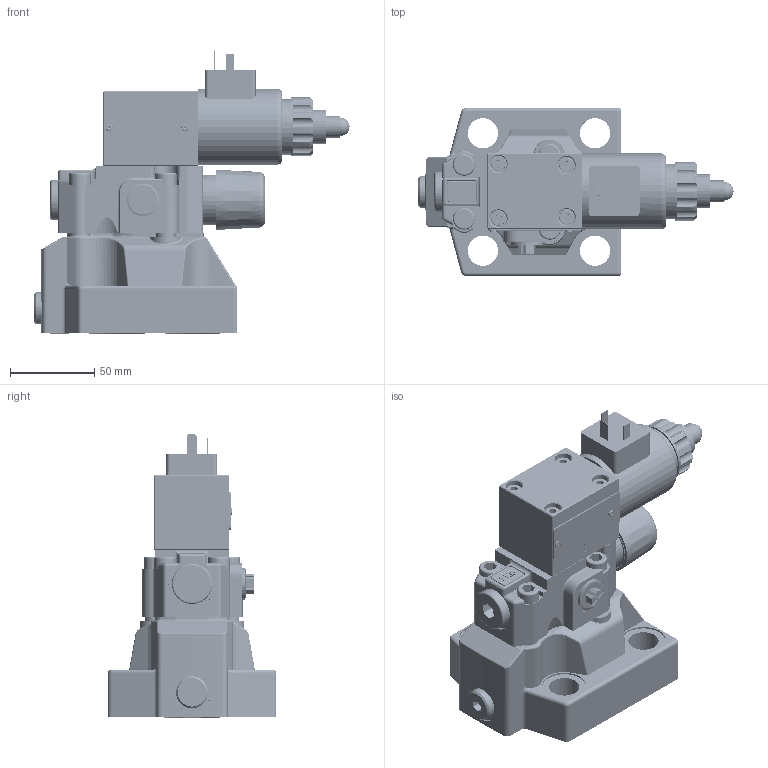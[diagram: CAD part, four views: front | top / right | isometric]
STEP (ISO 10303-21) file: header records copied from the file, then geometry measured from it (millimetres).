
FILE_DESCRIPTION(/* description */ (''),/* implementation_level */ '2;1');
FILE_NAME(/* name */ 'DBEM20.stp',/* time_stamp */ '2024-07-31T14:53:30+08:00',/* author */ (''),/* organization */ (''),/* preprocessor_version */ 'ST-DEVELOPER v16.7',/* originating_system */ 'SIEMENS PLM Software NX 12.0',/* authorisation */ '');
FILE_SCHEMA (('AUTOMOTIVE_DESIGN { 1 0 10303 214 3 1 1 1 }'));
Products named in the file (1): DBEM20
Bounding box: 187.3 x 100 x 168.53 mm (x, y, z)
Volume: 279136.3 mm3; surface area: 209796.9 mm2
Topology: 65 solids, 70 shells, 2124 faces, 5397 edges, 3488 vertices
Faces by surface type: cylinder 836, plane 701, cone 201, bspline 172, extrusion 139, torus 67, sphere 6, revolution 2
Full cylindrical faces by diameter (mm): 0.8 x2, 1 x4, 1.5 x5, 1.6 x1, 1.8 x6, 2 x7, 3 x7, 3.3 x22, 3.4 x22, 4 x5, 4.2 x1, 4.3 x48, 4.8 x1, 5 x119, 5.4 x1, 5.5 x3, 5.6 x3, 6 x3, 6.7 x1, 7 x13, 7.49 x1, 7.5 x1, 7.54 x1, 8 x85, 8.3 x1, 8.4 x6, 8.5 x4, 9 x3, 9.5 x1, 10 x16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
Entity records: 201186 total; most frequent: CARTESIAN_POINT 161355, ORIENTED_EDGE 7626, DIRECTION 6964, EDGE_CURVE 3813, AXIS2_PLACEMENT_3D 2766, VERTEX_POINT 2693, EDGE_LOOP 2482, ADVANCED_FACE 1815
